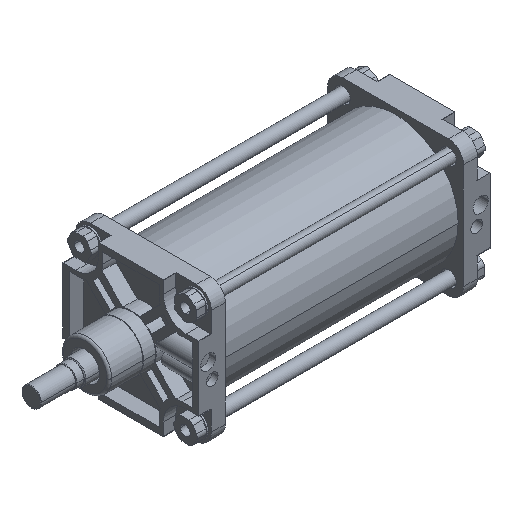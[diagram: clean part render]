
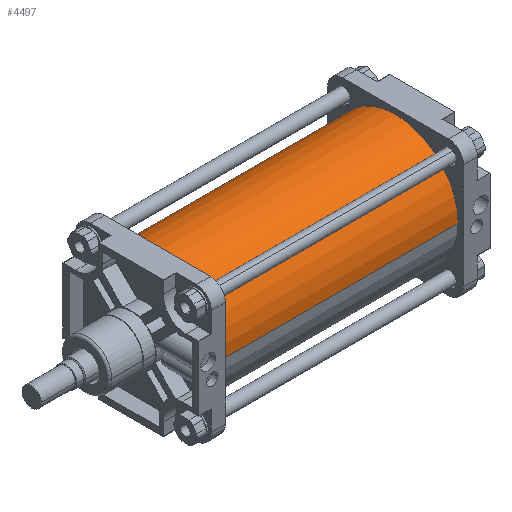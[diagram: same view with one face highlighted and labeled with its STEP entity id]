
A CAD part, isometric view. The second image highlights one B-rep face of the part: STEP entity #4497.
In plain terms, the highlighted cylindrical face has radius 130 mm (diameter 260 mm), a partial arc.
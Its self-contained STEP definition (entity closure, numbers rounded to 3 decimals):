
#2427=CARTESIAN_POINT('Vertex',(-50.,-130.,0.)) ;
#2429=CARTESIAN_POINT('Vertex',(-50.,130.,0.)) ;
#2432=CARTESIAN_POINT('Axis2P3D Location',(-50.,0.,0.)) ;
#4467=CARTESIAN_POINT('Axis2P3D Location',(197.,0.,0.)) ;
#4472=CARTESIAN_POINT('Line Origine',(197.,130.,0.)) ;
#4476=CARTESIAN_POINT('Vertex',(444.,130.,0.)) ;
#4479=CARTESIAN_POINT('Line Origine',(197.,-130.,0.)) ;
#4483=CARTESIAN_POINT('Vertex',(444.,-130.,0.)) ;
#4486=CARTESIAN_POINT('Axis2P3D Location',(444.,0.,0.)) ;
#2433=DIRECTION('Axis2P3D Direction',(-1.,0.,0.)) ;
#4468=DIRECTION('Axis2P3D Direction',(1.,-0.,0.)) ;
#4469=DIRECTION('Axis2P3D XDirection',(0.,1.,0.)) ;
#4473=DIRECTION('Vector Direction',(1.,0.,0.)) ;
#4480=DIRECTION('Vector Direction',(1.,0.,0.)) ;
#4487=DIRECTION('Axis2P3D Direction',(1.,-0.,0.)) ;
#2434=AXIS2_PLACEMENT_3D('Circle Axis2P3D',#2432,#2433,$) ;
#4470=AXIS2_PLACEMENT_3D('Cylinder Axis2P3D',#4467,#4468,#4469) ;
#4488=AXIS2_PLACEMENT_3D('Circle Axis2P3D',#4486,#4487,$) ;
#4492=ORIENTED_EDGE('',*,*,#4478,.F.) ;
#4493=ORIENTED_EDGE('',*,*,#2436,.T.) ;
#4494=ORIENTED_EDGE('',*,*,#4485,.T.) ;
#4495=ORIENTED_EDGE('',*,*,#4490,.F.) ;
#4474=VECTOR('Line Direction',#4473,1.) ;
#4481=VECTOR('Line Direction',#4480,1.) ;
#4497=ADVANCED_FACE('PartBody',(#4496),#4471,.T.) ;
#2435=CIRCLE('generated circle',#2434,130.) ;
#4489=CIRCLE('generated circle',#4488,130.) ;
#4471=CYLINDRICAL_SURFACE('generated cylinder',#4470,130.) ;
#2436=EDGE_CURVE('',#2430,#2428,#2435,.F.) ;
#4478=EDGE_CURVE('',#2430,#4477,#4475,.T.) ;
#4485=EDGE_CURVE('',#2428,#4484,#4482,.T.) ;
#4490=EDGE_CURVE('',#4477,#4484,#4489,.T.) ;
#4491=EDGE_LOOP('',(#4492,#4493,#4494,#4495)) ;
#4496=FACE_OUTER_BOUND('',#4491,.T.) ;
#4475=LINE('Line',#4472,#4474) ;
#4482=LINE('Line',#4479,#4481) ;
#2428=VERTEX_POINT('',#2427) ;
#2430=VERTEX_POINT('',#2429) ;
#4477=VERTEX_POINT('',#4476) ;
#4484=VERTEX_POINT('',#4483) ;
